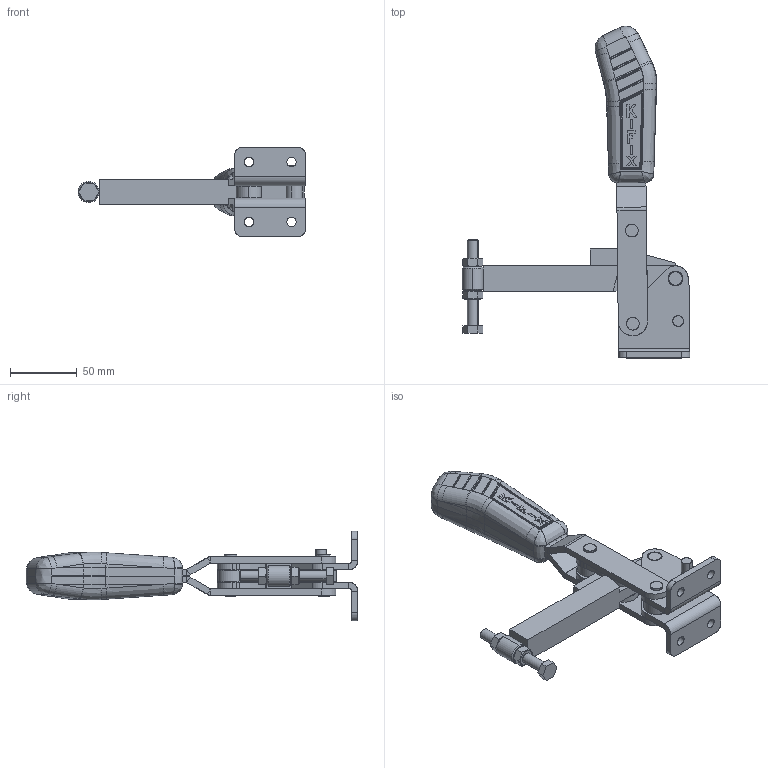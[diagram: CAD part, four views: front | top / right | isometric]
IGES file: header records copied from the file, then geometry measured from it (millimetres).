
Start section: SolidWorks IGES file using analytic representation for surfaces
Global section: file name: C:\Projetos\Grampos\KF-616\KF-616 D\KF-616 D.IGS; native system: SolidWorks 2013; preprocessor: SolidWorks 2013; author: Ricardo; date: 140801.105003; units: millimetre
Bounding box: 170.91 x 249.15 x 67 mm (x, y, z)
Surface area: 90795.9 mm2 (no closed solid volume)
Topology: 0 solids, 0 shells, 708 faces, 8168 edges, 8149 vertices
Faces by surface type: bspline 398, revolution 310
